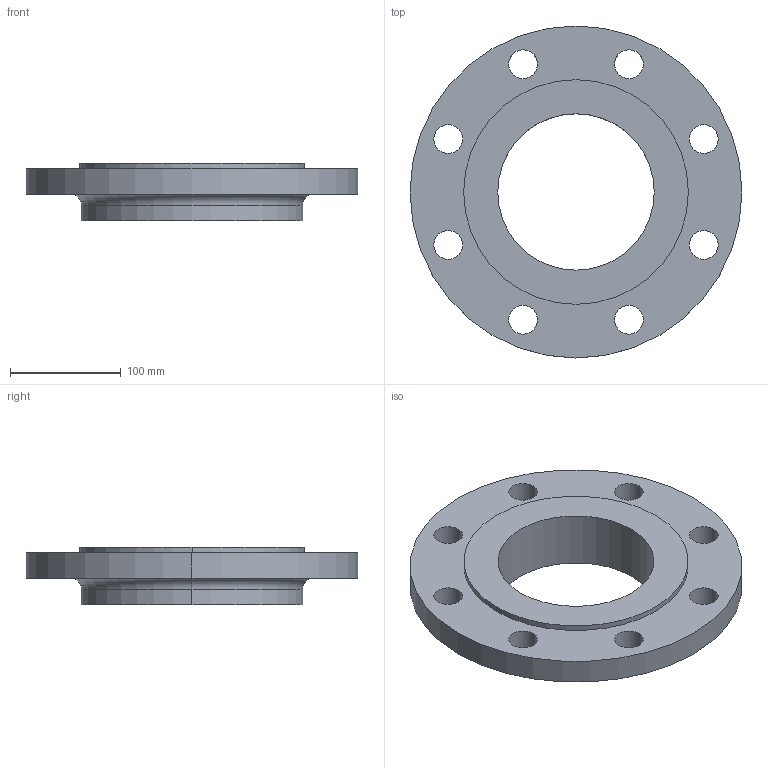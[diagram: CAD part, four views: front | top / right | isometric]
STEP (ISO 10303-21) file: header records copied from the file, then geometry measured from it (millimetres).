
FILE_DESCRIPTION (( 'STEP AP214' ), '1' );
FILE_NAME ('PN40 DN150 Type 13 - Type E Face.STEP', '2019-01-04T21:57:07', ( '' ), ( '' ), 'SwSTEP 2.0', 'SolidWorks 2019', '' );
FILE_SCHEMA (( 'AUTOMOTIVE_DESIGN' ));
Length unit declared in the file: millimetre
Products named in the file (1): PN40 DN150 Type 13 - Type E Face
Bounding box: 300 x 300 x 52 mm (x, y, z)
Volume: 1641803.3 mm3; surface area: 176909.2 mm2
Topology: 1 solids, 1 shells, 30 faces, 76 edges, 50 vertices
Faces by surface type: cylinder 24, plane 4, torus 2
Entity records: 1006 total; most frequent: DIRECTION 190, CARTESIAN_POINT 157, ORIENTED_EDGE 152, AXIS2_PLACEMENT_3D 83, EDGE_CURVE 76, CIRCLE 52, EDGE_LOOP 50, VERTEX_POINT 50
